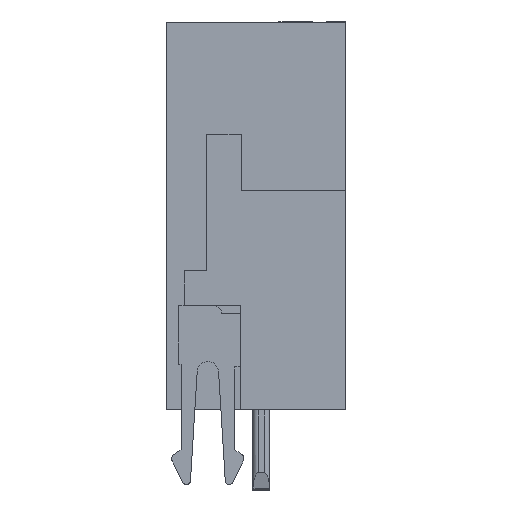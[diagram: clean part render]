
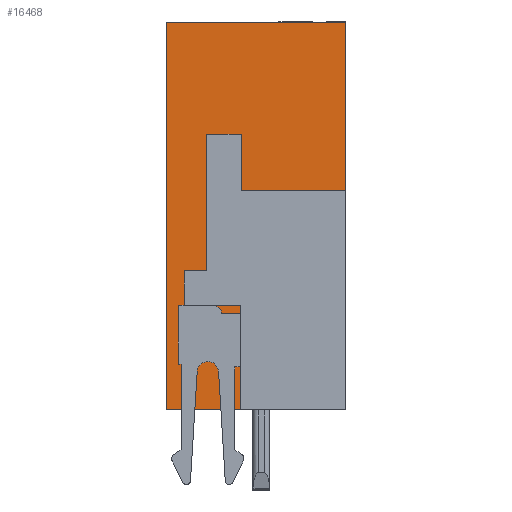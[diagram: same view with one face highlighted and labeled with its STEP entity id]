
A CAD part, left-side view. The second image highlights one B-rep face of the part: STEP entity #16468.
In plain terms, the highlighted planar face has unit normal (-1, 0, 0).
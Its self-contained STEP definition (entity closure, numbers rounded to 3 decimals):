
#248 = CARTESIAN_POINT ( 'NONE',  ( -19.405, 0., 10.7 ) ) ;
#333 = CARTESIAN_POINT ( 'NONE',  ( -19.405, 6.03, 0.1 ) ) ;
#500 = CARTESIAN_POINT ( 'NONE',  ( -19.405, 6.7, -3.8 ) ) ;
#577 = CARTESIAN_POINT ( 'NONE',  ( -19.405, 3.9, 4.4 ) ) ;
#591 = EDGE_CURVE ( 'NONE', #16406, #17180, #1555, .T. ) ;
#596 = EDGE_CURVE ( 'NONE', #17180, #9078, #6281, .T. ) ;
#639 = LINE ( 'NONE', #1229, #4739 ) ;
#728 = CARTESIAN_POINT ( 'NONE',  ( -19.405, 5.2, 6.5 ) ) ;
#810 = CARTESIAN_POINT ( 'NONE',  ( -19.405, 0., 4.4 ) ) ;
#1083 = DIRECTION ( 'NONE',  ( -1., 0., 0. ) ) ;
#1205 = DIRECTION ( 'NONE',  ( 0., 0., 1. ) ) ;
#1229 = CARTESIAN_POINT ( 'NONE',  ( -19.405, 3.93, -3.8 ) ) ;
#1478 = DIRECTION ( 'NONE',  ( 0., 0., -1. ) ) ;
#1555 = LINE ( 'NONE', #8151, #16611 ) ;
#1980 = CARTESIAN_POINT ( 'NONE',  ( -19.405, 6.7, 10.7 ) ) ;
#1989 = EDGE_CURVE ( 'NONE', #6572, #16406, #639, .T. ) ;
#2009 = DIRECTION ( 'NONE',  ( 0., -1., 0. ) ) ;
#2110 = AXIS2_PLACEMENT_3D ( 'NONE', #2646, #1083, #1205 ) ;
#2278 = LINE ( 'NONE', #810, #12391 ) ;
#2582 = ORIENTED_EDGE ( 'NONE', *, *, #5528, .T. ) ;
#2629 = CARTESIAN_POINT ( 'NONE',  ( -19.405, 5.2, 6.5 ) ) ;
#2646 = CARTESIAN_POINT ( 'NONE',  ( -19.405, 6.7, 0. ) ) ;
#2813 = ORIENTED_EDGE ( 'NONE', *, *, #4828, .T. ) ;
#3488 = VECTOR ( 'NONE', #6719, 1000. ) ;
#3510 = ORIENTED_EDGE ( 'NONE', *, *, #1989, .T. ) ;
#3800 = CARTESIAN_POINT ( 'NONE',  ( -19.405, 3.93, 0.1 ) ) ;
#3826 = CARTESIAN_POINT ( 'NONE',  ( -19.405, 0., 4.4 ) ) ;
#3907 = CARTESIAN_POINT ( 'NONE',  ( -19.405, 6.7, -3.8 ) ) ;
#4178 = EDGE_CURVE ( 'NONE', #15229, #13088, #2278, .T. ) ;
#4190 = VECTOR ( 'NONE', #8319, 1000. ) ;
#4192 = LINE ( 'NONE', #500, #15342 ) ;
#4438 = CARTESIAN_POINT ( 'NONE',  ( -19.405, 3.9, 6.5 ) ) ;
#4572 = DIRECTION ( 'NONE',  ( 0., 0., -1. ) ) ;
#4577 = ORIENTED_EDGE ( 'NONE', *, *, #13998, .T. ) ;
#4739 = VECTOR ( 'NONE', #5135, 1000. ) ;
#4747 = VERTEX_POINT ( 'NONE', #3907 ) ;
#4803 = LINE ( 'NONE', #10930, #6725 ) ;
#4828 = EDGE_CURVE ( 'NONE', #7980, #16711, #8697, .T. ) ;
#4851 = ORIENTED_EDGE ( 'NONE', *, *, #6115, .T. ) ;
#4969 = DIRECTION ( 'NONE',  ( 0., -1., 0. ) ) ;
#5002 = DIRECTION ( 'NONE',  ( 0., -1., 0. ) ) ;
#5135 = DIRECTION ( 'NONE',  ( 0., 0., 1. ) ) ;
#5336 = DIRECTION ( 'NONE',  ( 0., 1., 0. ) ) ;
#5528 = EDGE_CURVE ( 'NONE', #4747, #6572, #4192, .T. ) ;
#5881 = CARTESIAN_POINT ( 'NONE',  ( -19.405, 3.9, 4.4 ) ) ;
#6115 = EDGE_CURVE ( 'NONE', #13088, #15483, #16944, .T. ) ;
#6281 = LINE ( 'NONE', #14973, #3488 ) ;
#6344 = CARTESIAN_POINT ( 'NONE',  ( -19.405, 5.2, 1.4 ) ) ;
#6572 = VERTEX_POINT ( 'NONE', #10660 ) ;
#6719 = DIRECTION ( 'NONE',  ( 0., 0., 1. ) ) ;
#6725 = VECTOR ( 'NONE', #6975, 1000. ) ;
#6728 = ORIENTED_EDGE ( 'NONE', *, *, #16789, .T. ) ;
#6887 = DIRECTION ( 'NONE',  ( 0., 1., 0. ) ) ;
#6975 = DIRECTION ( 'NONE',  ( 0., 0., 1. ) ) ;
#7640 = ORIENTED_EDGE ( 'NONE', *, *, #14340, .T. ) ;
#7874 = ORIENTED_EDGE ( 'NONE', *, *, #591, .T. ) ;
#7980 = VERTEX_POINT ( 'NONE', #10003 ) ;
#8151 = CARTESIAN_POINT ( 'NONE',  ( -19.405, 3.93, 0.1 ) ) ;
#8213 = ORIENTED_EDGE ( 'NONE', *, *, #4178, .T. ) ;
#8319 = DIRECTION ( 'NONE',  ( 0., -1., 0. ) ) ;
#8697 = LINE ( 'NONE', #4438, #15594 ) ;
#9078 = VERTEX_POINT ( 'NONE', #17587 ) ;
#9778 = LINE ( 'NONE', #1980, #17094 ) ;
#9810 = EDGE_CURVE ( 'NONE', #16792, #12317, #4803, .T. ) ;
#10003 = CARTESIAN_POINT ( 'NONE',  ( -19.405, 3.9, 6.5 ) ) ;
#10072 = ORIENTED_EDGE ( 'NONE', *, *, #9810, .T. ) ;
#10318 = EDGE_LOOP ( 'NONE', ( #3510, #7874, #15532, #10659, #10072, #4577, #2813, #6728, #8213, #4851, #7640, #2582 ) ) ;
#10420 = DIRECTION ( 'NONE',  ( 0., 0., 1. ) ) ;
#10659 = ORIENTED_EDGE ( 'NONE', *, *, #14781, .T. ) ;
#10660 = CARTESIAN_POINT ( 'NONE',  ( -19.405, 3.93, -3.8 ) ) ;
#10930 = CARTESIAN_POINT ( 'NONE',  ( -19.405, 5.2, 1.4 ) ) ;
#11706 = LINE ( 'NONE', #12553, #4190 ) ;
#11787 = VECTOR ( 'NONE', #6887, 1000. ) ;
#12317 = VERTEX_POINT ( 'NONE', #2629 ) ;
#12391 = VECTOR ( 'NONE', #10420, 1000. ) ;
#12553 = CARTESIAN_POINT ( 'NONE',  ( -19.405, 6.03, 1.4 ) ) ;
#13088 = VERTEX_POINT ( 'NONE', #248 ) ;
#13193 = CARTESIAN_POINT ( 'NONE',  ( -19.405, 6.7, 10.7 ) ) ;
#13786 = LINE ( 'NONE', #577, #16994 ) ;
#13803 = FACE_OUTER_BOUND ( 'NONE', #10318, .T. ) ;
#13998 = EDGE_CURVE ( 'NONE', #12317, #7980, #15394, .T. ) ;
#14340 = EDGE_CURVE ( 'NONE', #15483, #4747, #9778, .T. ) ;
#14781 = EDGE_CURVE ( 'NONE', #9078, #16792, #11706, .T. ) ;
#14916 = PLANE ( 'NONE',  #2110 ) ;
#14964 = CARTESIAN_POINT ( 'NONE',  ( -19.405, 0., 10.7 ) ) ;
#14973 = CARTESIAN_POINT ( 'NONE',  ( -19.405, 6.03, 0.1 ) ) ;
#15175 = VECTOR ( 'NONE', #5002, 1000. ) ;
#15229 = VERTEX_POINT ( 'NONE', #3826 ) ;
#15342 = VECTOR ( 'NONE', #2009, 1000. ) ;
#15394 = LINE ( 'NONE', #728, #15175 ) ;
#15483 = VERTEX_POINT ( 'NONE', #13193 ) ;
#15532 = ORIENTED_EDGE ( 'NONE', *, *, #596, .T. ) ;
#15594 = VECTOR ( 'NONE', #1478, 1000. ) ;
#16406 = VERTEX_POINT ( 'NONE', #3800 ) ;
#16468 = ADVANCED_FACE ( 'NONE', ( #13803 ), #14916, .T. ) ;
#16611 = VECTOR ( 'NONE', #5336, 1000. ) ;
#16711 = VERTEX_POINT ( 'NONE', #5881 ) ;
#16789 = EDGE_CURVE ( 'NONE', #16711, #15229, #13786, .T. ) ;
#16792 = VERTEX_POINT ( 'NONE', #6344 ) ;
#16944 = LINE ( 'NONE', #14964, #11787 ) ;
#16994 = VECTOR ( 'NONE', #4969, 1000. ) ;
#17094 = VECTOR ( 'NONE', #4572, 1000. ) ;
#17180 = VERTEX_POINT ( 'NONE', #333 ) ;
#17587 = CARTESIAN_POINT ( 'NONE',  ( -19.405, 6.03, 1.4 ) ) ;
